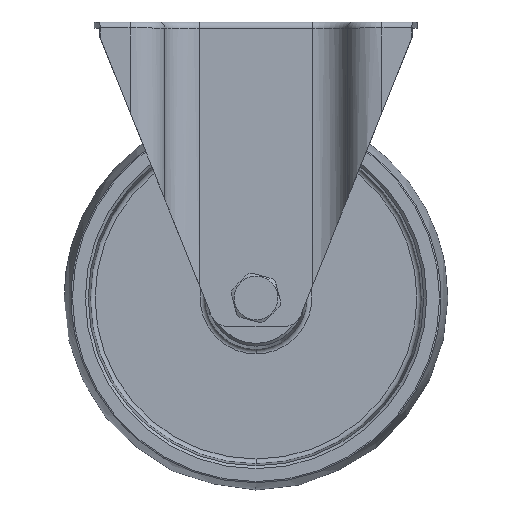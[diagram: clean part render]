
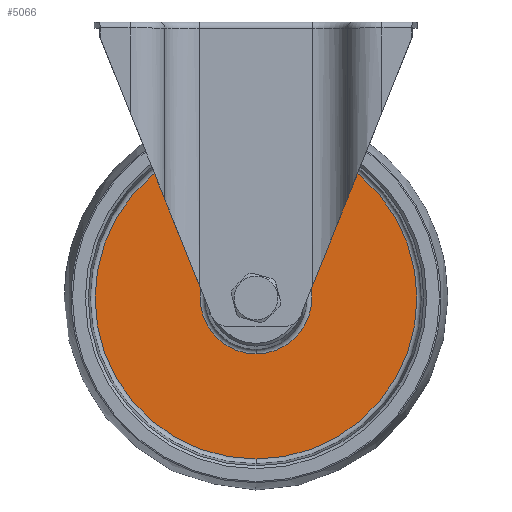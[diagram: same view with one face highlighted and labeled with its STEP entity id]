
A CAD part, top view. The second image highlights one B-rep face of the part: STEP entity #5066.
In plain terms, the highlighted planar face has unit normal (0, 0, 1).
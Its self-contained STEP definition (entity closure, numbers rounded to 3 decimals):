
#207 = VERTEX_POINT ( 'NONE', #5174 ) ;
#1000 = DIRECTION ( 'NONE',  ( 0., 1., 0. ) ) ;
#1068 = AXIS2_PLACEMENT_3D ( 'NONE', #6538, #1352, #1000 ) ;
#1197 = DIRECTION ( 'NONE',  ( 0., 1., 0. ) ) ;
#1257 = AXIS2_PLACEMENT_3D ( 'NONE', #5121, #8877, #4376 ) ;
#1352 = DIRECTION ( 'NONE',  ( 0., 0., 1. ) ) ;
#2379 = DIRECTION ( 'NONE',  ( 0., 1., 0. ) ) ;
#2624 = VERTEX_POINT ( 'NONE', #8788 ) ;
#2654 = CIRCLE ( 'NONE', #4192, 67.093 ) ;
#2996 = AXIS2_PLACEMENT_3D ( 'NONE', #9416, #9467, #10435 ) ;
#3268 = PLANE ( 'NONE',  #3510 ) ;
#3510 = AXIS2_PLACEMENT_3D ( 'NONE', #6983, #10684, #2379 ) ;
#4178 = FACE_BOUND ( 'NONE', #10526, .T. ) ;
#4192 = AXIS2_PLACEMENT_3D ( 'NONE', #9579, #11286, #1197 ) ;
#4376 = DIRECTION ( 'NONE',  ( 0., 1., 0. ) ) ;
#4973 = ORIENTED_EDGE ( 'NONE', *, *, #8889, .T. ) ;
#5066 = ADVANCED_FACE ( 'NONE', ( #4178, #6860 ), #3268, .F. ) ;
#5121 = CARTESIAN_POINT ( 'NONE',  ( 0., 0., 2.75 ) ) ;
#5174 = CARTESIAN_POINT ( 'NONE',  ( 0., 67.093, 2.75 ) ) ;
#5342 = CIRCLE ( 'NONE', #1068, 67.093 ) ;
#5575 = EDGE_LOOP ( 'NONE', ( #11557, #6884 ) ) ;
#5989 = VERTEX_POINT ( 'NONE', #7132 ) ;
#6280 = CARTESIAN_POINT ( 'NONE',  ( 0., -23.274, 2.75 ) ) ;
#6538 = CARTESIAN_POINT ( 'NONE',  ( 0., 0., 2.75 ) ) ;
#6860 = FACE_OUTER_BOUND ( 'NONE', #5575, .T. ) ;
#6868 = EDGE_CURVE ( 'NONE', #207, #5989, #5342, .T. ) ;
#6884 = ORIENTED_EDGE ( 'NONE', *, *, #7631, .T. ) ;
#6910 = VERTEX_POINT ( 'NONE', #6280 ) ;
#6973 = EDGE_CURVE ( 'NONE', #2624, #6910, #8630, .T. ) ;
#6983 = CARTESIAN_POINT ( 'NONE',  ( 0., 68.991, 2.75 ) ) ;
#7132 = CARTESIAN_POINT ( 'NONE',  ( 0., -67.093, 2.75 ) ) ;
#7631 = EDGE_CURVE ( 'NONE', #5989, #207, #2654, .T. ) ;
#8630 = CIRCLE ( 'NONE', #1257, 23.274 ) ;
#8788 = CARTESIAN_POINT ( 'NONE',  ( 0., 23.274, 2.75 ) ) ;
#8877 = DIRECTION ( 'NONE',  ( 0., 0., -1. ) ) ;
#8889 = EDGE_CURVE ( 'NONE', #6910, #2624, #10174, .T. ) ;
#9416 = CARTESIAN_POINT ( 'NONE',  ( 0., 0., 2.75 ) ) ;
#9467 = DIRECTION ( 'NONE',  ( 0., 0., -1. ) ) ;
#9579 = CARTESIAN_POINT ( 'NONE',  ( 0., 0., 2.75 ) ) ;
#10174 = CIRCLE ( 'NONE', #2996, 23.274 ) ;
#10435 = DIRECTION ( 'NONE',  ( 0., 1., 0. ) ) ;
#10526 = EDGE_LOOP ( 'NONE', ( #11917, #4973 ) ) ;
#10684 = DIRECTION ( 'NONE',  ( 0., 0., -1. ) ) ;
#11286 = DIRECTION ( 'NONE',  ( 0., 0., 1. ) ) ;
#11557 = ORIENTED_EDGE ( 'NONE', *, *, #6868, .T. ) ;
#11917 = ORIENTED_EDGE ( 'NONE', *, *, #6973, .T. ) ;
